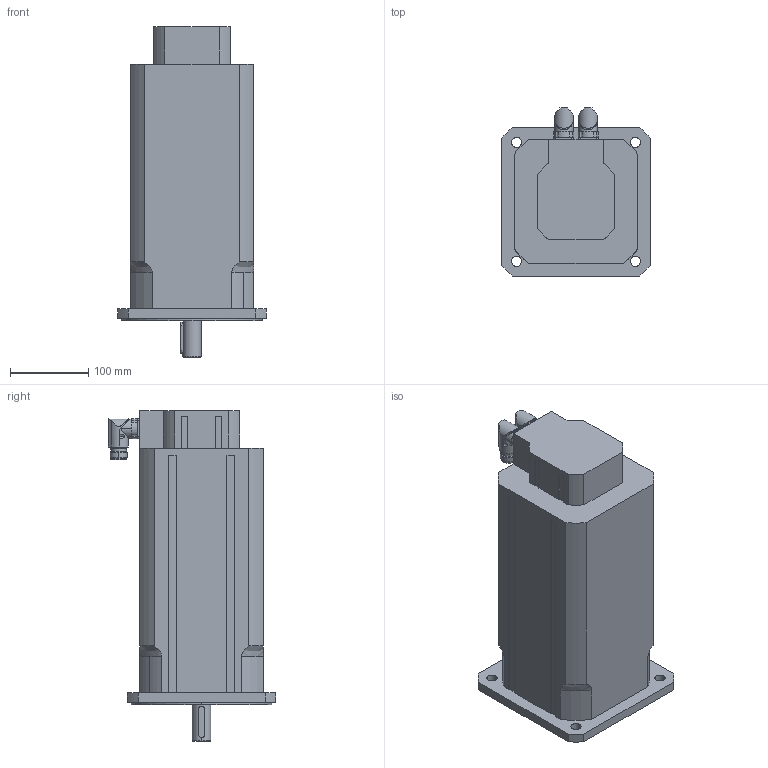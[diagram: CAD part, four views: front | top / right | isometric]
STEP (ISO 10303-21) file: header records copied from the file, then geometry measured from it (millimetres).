
FILE_DESCRIPTION(('STEP AP203'),'2;1');
FILE_NAME('MT6-2900_BX.stp','2006-08-28T20:59:08',(''),(''),'2005.2.102','THINKDESIGN','');
FILE_SCHEMA(('CONFIG_CONTROL_DESIGN'));
Length unit declared in the file: millimetre
Bounding box: 190 x 214.5 x 423 mm (x, y, z)
Volume: 8615298.2 mm3; surface area: 317547.2 mm2
Topology: 3 solids, 3 shells, 258 faces, 685 edges, 443 vertices
Faces by surface type: cylinder 112, plane 108, bspline 38
Full cylindrical faces by diameter (mm): 20 x2
Entity records: 9380 total; most frequent: CARTESIAN_POINT 2860, ORIENTED_EDGE 1366, DIRECTION 1343, EDGE_CURVE 683, AXIS2_PLACEMENT_3D 500, VERTEX_POINT 443, VECTOR 343, LINE 343
